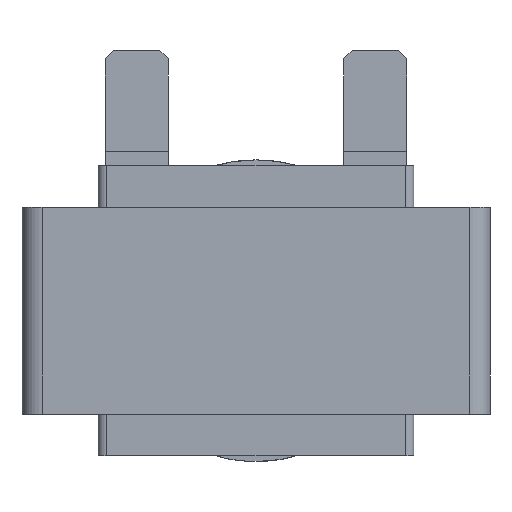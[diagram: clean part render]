
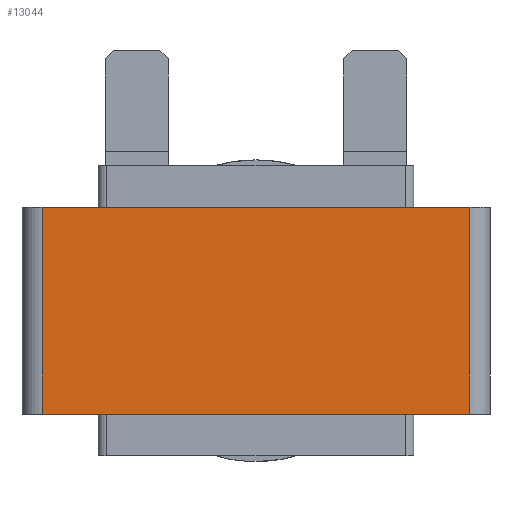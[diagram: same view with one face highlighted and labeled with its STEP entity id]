
A CAD part, front view. The second image highlights one B-rep face of the part: STEP entity #13044.
In plain terms, the highlighted planar face has unit normal (0, -1, 0).
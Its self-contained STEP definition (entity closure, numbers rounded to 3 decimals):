
#503 = VECTOR ( 'NONE', #16641, 1000. ) ;
#540 = VECTOR ( 'NONE', #3467, 1000. ) ;
#612 = CARTESIAN_POINT ( 'NONE',  ( -25.43, -10.881, 12.3 ) ) ;
#625 = LINE ( 'NONE', #14592, #4037 ) ;
#670 = VERTEX_POINT ( 'NONE', #8391 ) ;
#1002 = EDGE_CURVE ( 'NONE', #1398, #9608, #625, .T. ) ;
#1398 = VERTEX_POINT ( 'NONE', #9171 ) ;
#1450 = LINE ( 'NONE', #17966, #540 ) ;
#1593 = EDGE_CURVE ( 'NONE', #12033, #1398, #11655, .T. ) ;
#3467 = DIRECTION ( 'NONE',  ( 1., 0., 0. ) ) ;
#4037 = VECTOR ( 'NONE', #7272, 1000. ) ;
#4110 = CARTESIAN_POINT ( 'NONE',  ( -25.43, -10.881, 12.3 ) ) ;
#4563 = EDGE_CURVE ( 'NONE', #12033, #670, #9673, .T. ) ;
#7272 = DIRECTION ( 'NONE',  ( 0., 0., -1. ) ) ;
#7290 = ORIENTED_EDGE ( 'NONE', *, *, #1002, .F. ) ;
#8391 = CARTESIAN_POINT ( 'NONE',  ( -25.43, -10.881, -12.3 ) ) ;
#8576 = DIRECTION ( 'NONE',  ( 0., 0., 1. ) ) ;
#8823 = CARTESIAN_POINT ( 'NONE',  ( -25.43, -10.881, 12.3 ) ) ;
#9146 = ORIENTED_EDGE ( 'NONE', *, *, #1593, .F. ) ;
#9171 = CARTESIAN_POINT ( 'NONE',  ( 25.43, -10.881, 12.3 ) ) ;
#9259 = FACE_OUTER_BOUND ( 'NONE', #13064, .T. ) ;
#9608 = VERTEX_POINT ( 'NONE', #11081 ) ;
#9673 = LINE ( 'NONE', #8823, #13993 ) ;
#9737 = AXIS2_PLACEMENT_3D ( 'NONE', #4110, #18809, #8576 ) ;
#10266 = CARTESIAN_POINT ( 'NONE',  ( -25.43, -10.881, 12.3 ) ) ;
#11081 = CARTESIAN_POINT ( 'NONE',  ( 25.43, -10.881, -12.3 ) ) ;
#11655 = LINE ( 'NONE', #612, #503 ) ;
#11732 = DIRECTION ( 'NONE',  ( 0., 0., -1. ) ) ;
#12033 = VERTEX_POINT ( 'NONE', #10266 ) ;
#12812 = PLANE ( 'NONE',  #9737 ) ;
#13044 = ADVANCED_FACE ( 'NONE', ( #9259 ), #12812, .F. ) ;
#13064 = EDGE_LOOP ( 'NONE', ( #17429, #7290, #9146, #18081 ) ) ;
#13993 = VECTOR ( 'NONE', #11732, 1000. ) ;
#14592 = CARTESIAN_POINT ( 'NONE',  ( 25.43, -10.881, 12.3 ) ) ;
#15365 = EDGE_CURVE ( 'NONE', #670, #9608, #1450, .T. ) ;
#16641 = DIRECTION ( 'NONE',  ( 1., 0., 0. ) ) ;
#17429 = ORIENTED_EDGE ( 'NONE', *, *, #15365, .T. ) ;
#17966 = CARTESIAN_POINT ( 'NONE',  ( -25.43, -10.881, -12.3 ) ) ;
#18081 = ORIENTED_EDGE ( 'NONE', *, *, #4563, .T. ) ;
#18809 = DIRECTION ( 'NONE',  ( 0., 1., 0. ) ) ;
